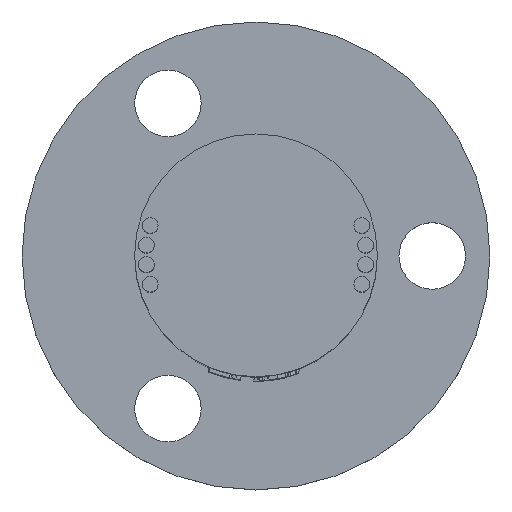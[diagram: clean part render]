
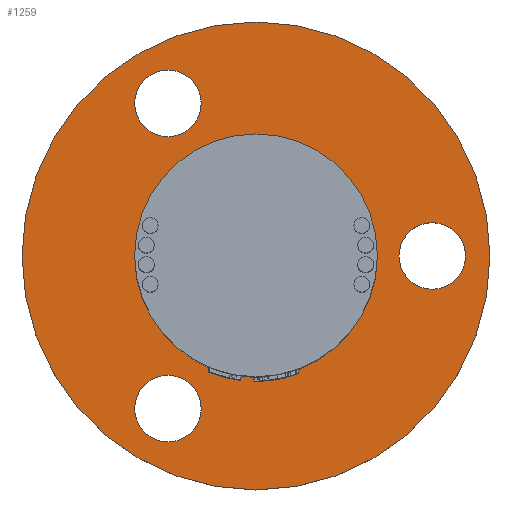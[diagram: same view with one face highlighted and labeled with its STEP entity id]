
A CAD part, top view. The second image highlights one B-rep face of the part: STEP entity #1259.
In plain terms, the highlighted planar face has unit normal (0, 0, 1).
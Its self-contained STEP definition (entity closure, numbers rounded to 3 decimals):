
#172=FACE_BOUND('',#3731,.T.);
#173=FACE_BOUND('',#3732,.T.);
#174=FACE_BOUND('',#3733,.T.);
#175=FACE_BOUND('',#3734,.T.);
#176=FACE_BOUND('',#3735,.T.);
#278=CIRCLE('',#13551,6.2);
#297=CIRCLE('',#13582,11.95);
#298=CIRCLE('',#13584,1.7);
#299=CIRCLE('',#13586,1.7);
#300=CIRCLE('',#13588,1.7);
#591=PLANE('',#13590);
#1259=ADVANCED_FACE('',(#172,#173,#174,#175,#176),#591,.T.);
#3731=EDGE_LOOP('',(#6572));
#3732=EDGE_LOOP('',(#6573));
#3733=EDGE_LOOP('',(#6574));
#3734=EDGE_LOOP('',(#6575));
#3735=EDGE_LOOP('',(#6576));
#6572=ORIENTED_EDGE('',*,*,#10727,.F.);
#6573=ORIENTED_EDGE('',*,*,#10749,.F.);
#6574=ORIENTED_EDGE('',*,*,#10748,.F.);
#6575=ORIENTED_EDGE('',*,*,#10747,.F.);
#6576=ORIENTED_EDGE('',*,*,#10746,.F.);
#8897=VERTEX_POINT('',#26750);
#8916=VERTEX_POINT('',#26800);
#8917=VERTEX_POINT('',#26803);
#8918=VERTEX_POINT('',#26806);
#8919=VERTEX_POINT('',#26809);
#10727=EDGE_CURVE('',#8897,#8897,#278,.T.);
#10746=EDGE_CURVE('',#8916,#8916,#297,.T.);
#10747=EDGE_CURVE('',#8917,#8917,#298,.T.);
#10748=EDGE_CURVE('',#8918,#8918,#299,.T.);
#10749=EDGE_CURVE('',#8919,#8919,#300,.T.);
#13551=AXIS2_PLACEMENT_3D('',#26749,#14711,#14712);
#13582=AXIS2_PLACEMENT_3D('',#26799,#14773,#14774);
#13584=AXIS2_PLACEMENT_3D('',#26802,#14777,#14778);
#13586=AXIS2_PLACEMENT_3D('',#26805,#14781,#14782);
#13588=AXIS2_PLACEMENT_3D('',#26808,#14785,#14786);
#13590=AXIS2_PLACEMENT_3D('',#26811,#14789,#14790);
#14711=DIRECTION('',(0.,0.,1.));
#14712=DIRECTION('',(1.,0.,0.));
#14773=DIRECTION('',(0.,0.,-1.));
#14774=DIRECTION('',(1.,0.,0.));
#14777=DIRECTION('',(0.,0.,1.));
#14778=DIRECTION('',(1.,0.,0.));
#14781=DIRECTION('',(0.,0.,1.));
#14782=DIRECTION('',(1.,0.,0.));
#14785=DIRECTION('',(0.,0.,1.));
#14786=DIRECTION('',(1.,0.,0.));
#14789=DIRECTION('',(0.,0.,1.));
#14790=DIRECTION('',(1.,0.,0.));
#26749=CARTESIAN_POINT('',(0.,0.,5.5));
#26750=CARTESIAN_POINT('',(6.2,0.,5.5));
#26799=CARTESIAN_POINT('',(0.,0.,5.5));
#26800=CARTESIAN_POINT('',(11.95,0.,5.5));
#26802=CARTESIAN_POINT('',(-4.5,-7.794,5.5));
#26803=CARTESIAN_POINT('',(-2.8,-7.794,5.5));
#26805=CARTESIAN_POINT('',(-4.5,7.794,5.5));
#26806=CARTESIAN_POINT('',(-2.8,7.794,5.5));
#26808=CARTESIAN_POINT('',(9.,0.,5.5));
#26809=CARTESIAN_POINT('',(10.7,0.,5.5));
#26811=CARTESIAN_POINT('',(0.,0.,5.5));
